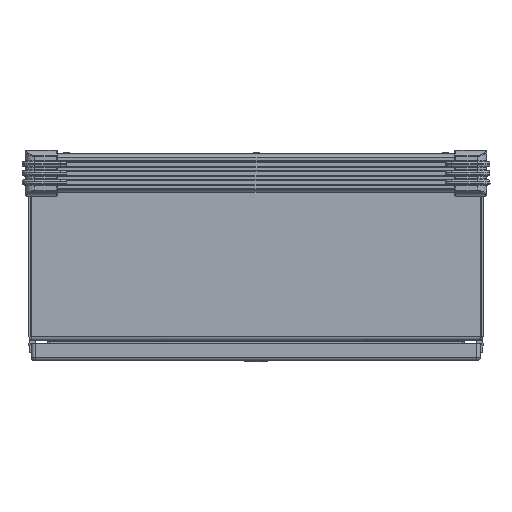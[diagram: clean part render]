
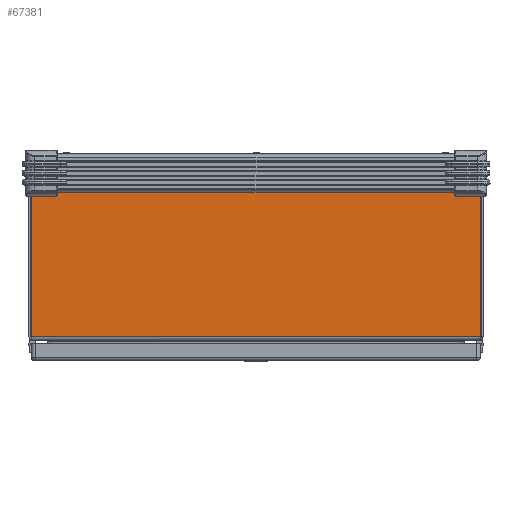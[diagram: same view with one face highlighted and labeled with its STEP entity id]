
A CAD part, left-side view. The second image highlights one B-rep face of the part: STEP entity #67381.
In plain terms, the highlighted planar face has unit normal (-1, 0, 0) as drawn and (1, 0, 0) by its records, which use the part's own axes.
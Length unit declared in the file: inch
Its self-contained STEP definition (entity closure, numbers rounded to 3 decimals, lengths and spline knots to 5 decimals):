
#24755 = VERTEX_POINT ( 'NONE', #56458 ) ;
#33807 = EDGE_LOOP ( 'NONE', ( #41823, #41824 ) ) ;
#33850 = EDGE_LOOP ( 'NONE', ( #41819, #41821 ) ) ;
#33853 = EDGE_LOOP ( 'NONE', ( #41805, #41804 ) ) ;
#33855 = EDGE_LOOP ( 'NONE', ( #41813, #41810, #41809, #41807 ) ) ;
#41804 = ORIENTED_EDGE ( 'NONE', *, *, #61068, .F. ) ;
#41805 = ORIENTED_EDGE ( 'NONE', *, *, #61425, .F. ) ;
#41807 = ORIENTED_EDGE ( 'NONE', *, *, #61220, .T. ) ;
#41809 = ORIENTED_EDGE ( 'NONE', *, *, #61347, .T. ) ;
#41810 = ORIENTED_EDGE ( 'NONE', *, *, #61193, .F. ) ;
#41813 = ORIENTED_EDGE ( 'NONE', *, *, #61342, .T. ) ;
#41819 = ORIENTED_EDGE ( 'NONE', *, *, #61333, .F. ) ;
#41821 = ORIENTED_EDGE ( 'NONE', *, *, #61385, .F. ) ;
#41823 = ORIENTED_EDGE ( 'NONE', *, *, #61218, .F. ) ;
#41824 = ORIENTED_EDGE ( 'NONE', *, *, #61065, .F. ) ;
#46309 = AXIS2_PLACEMENT_3D ( 'NONE', #59357, #59358, #59359 ) ;
#46310 = AXIS2_PLACEMENT_3D ( 'NONE', #59360, #59365, #59366 ) ;
#46341 = AXIS2_PLACEMENT_3D ( 'NONE', #59799, #59800, #59801 ) ;
#46367 = AXIS2_PLACEMENT_3D ( 'NONE', #60109, #60117, #60118 ) ;
#46386 = AXIS2_PLACEMENT_3D ( 'NONE', #60244, #60248, #60249 ) ;
#46398 = AXIS2_PLACEMENT_3D ( 'NONE', #60340, #60352, #60353 ) ;
#56458 = CARTESIAN_POINT ( 'NONE',  ( 10.8275, -8.77943, 0.132 ) ) ;
#57900 = CIRCLE ( 'NONE', #46309, 0.109 ) ;
#57904 = CIRCLE ( 'NONE', #46310, 0.109 ) ;
#58067 = LINE ( 'NONE', #59725, #58068 ) ;
#58068 = VECTOR ( 'NONE', #59726, 39.37008 ) ;
#58100 = CIRCLE ( 'NONE', #46341, 0.109 ) ;
#58101 = LINE ( 'NONE', #59804, #58102 ) ;
#58102 = VECTOR ( 'NONE', #59805, 39.37008 ) ;
#58255 = CIRCLE ( 'NONE', #46367, 0.109 ) ;
#58262 = LINE ( 'NONE', #60140, #58263 ) ;
#58263 = VECTOR ( 'NONE', #60141, 39.37008 ) ;
#58272 = LINE ( 'NONE', #60153, #58273 ) ;
#58273 = VECTOR ( 'NONE', #60154, 39.37008 ) ;
#58330 = CIRCLE ( 'NONE', #46386, 0.109 ) ;
#58390 = CIRCLE ( 'NONE', #46398, 0.109 ) ;
#59357 = CARTESIAN_POINT ( 'NONE',  ( 10.8275, -6.791, 0.553 ) ) ;
#59358 = DIRECTION ( 'NONE',  ( 1., 0., 0. ) ) ;
#59359 = DIRECTION ( 'NONE',  ( 0., 0., -1. ) ) ;
#59360 = CARTESIAN_POINT ( 'NONE',  ( 10.8275, 6.791, 0.553 ) ) ;
#59365 = DIRECTION ( 'NONE',  ( 1., 0., 0. ) ) ;
#59366 = DIRECTION ( 'NONE',  ( 0., 0., -1. ) ) ;
#59725 = CARTESIAN_POINT ( 'NONE',  ( 10.8275, -117.1335, 6.926 ) ) ;
#59726 = DIRECTION ( 'NONE',  ( 0., 1., 0. ) ) ;
#59799 = CARTESIAN_POINT ( 'NONE',  ( 10.8275, -6.791, 0.553 ) ) ;
#59800 = DIRECTION ( 'NONE',  ( 1., 0., 0. ) ) ;
#59801 = DIRECTION ( 'NONE',  ( 0., 0., -1. ) ) ;
#59804 = CARTESIAN_POINT ( 'NONE',  ( 10.8275, -117.1335, 0.132 ) ) ;
#59805 = DIRECTION ( 'NONE',  ( 0., 1., 0. ) ) ;
#60109 = CARTESIAN_POINT ( 'NONE',  ( 10.8275, 0., 0.553 ) ) ;
#60117 = DIRECTION ( 'NONE',  ( 1., 0., 0. ) ) ;
#60118 = DIRECTION ( 'NONE',  ( 0., 0., -1. ) ) ;
#60140 = CARTESIAN_POINT ( 'NONE',  ( 10.8275, 8.77943, 6.926 ) ) ;
#60141 = DIRECTION ( 'NONE',  ( 0., 0., 1. ) ) ;
#60153 = CARTESIAN_POINT ( 'NONE',  ( 10.8275, -8.77943, 6.926 ) ) ;
#60154 = DIRECTION ( 'NONE',  ( 0., 0., -1. ) ) ;
#60244 = CARTESIAN_POINT ( 'NONE',  ( 10.8275, 0., 0.553 ) ) ;
#60248 = DIRECTION ( 'NONE',  ( 1., 0., 0. ) ) ;
#60249 = DIRECTION ( 'NONE',  ( 0., 0., -1. ) ) ;
#60340 = CARTESIAN_POINT ( 'NONE',  ( 10.8275, 6.791, 0.553 ) ) ;
#60352 = DIRECTION ( 'NONE',  ( 1., 0., 0. ) ) ;
#60353 = DIRECTION ( 'NONE',  ( 0., 0., -1. ) ) ;
#61065 = EDGE_CURVE ( 'NONE', #66018, #66014, #57900, .T. ) ;
#61068 = EDGE_CURVE ( 'NONE', #66013, #66025, #57904, .T. ) ;
#61193 = EDGE_CURVE ( 'NONE', #65893, #65891, #58067, .T. ) ;
#61218 = EDGE_CURVE ( 'NONE', #66014, #66018, #58100, .T. ) ;
#61220 = EDGE_CURVE ( 'NONE', #24755, #65861, #58101, .T. ) ;
#61333 = EDGE_CURVE ( 'NONE', #66023, #66008, #58255, .T. ) ;
#61342 = EDGE_CURVE ( 'NONE', #65861, #65891, #58262, .T. ) ;
#61347 = EDGE_CURVE ( 'NONE', #65893, #24755, #58272, .T. ) ;
#61385 = EDGE_CURVE ( 'NONE', #66008, #66023, #58330, .T. ) ;
#61425 = EDGE_CURVE ( 'NONE', #66025, #66013, #58390, .T. ) ;
#61958 = FACE_BOUND ( 'NONE', #33807, .T. ) ;
#61963 = FACE_BOUND ( 'NONE', #33850, .T. ) ;
#61965 = FACE_BOUND ( 'NONE', #33853, .T. ) ;
#61967 = FACE_OUTER_BOUND ( 'NONE', #33855, .T. ) ;
#63054 = CARTESIAN_POINT ( 'NONE',  ( 10.8275, 8.77943, 0.132 ) ) ;
#63070 = CARTESIAN_POINT ( 'NONE',  ( 10.8275, 8.77943, 6.926 ) ) ;
#63071 = CARTESIAN_POINT ( 'NONE',  ( 10.8275, -8.77943, 6.926 ) ) ;
#63138 = CARTESIAN_POINT ( 'NONE',  ( 10.8275, 0., 0.444 ) ) ;
#63143 = CARTESIAN_POINT ( 'NONE',  ( 10.8275, 6.791, 0.444 ) ) ;
#63144 = CARTESIAN_POINT ( 'NONE',  ( 10.8275, -6.791, 0.662 ) ) ;
#63148 = CARTESIAN_POINT ( 'NONE',  ( 10.8275, -6.791, 0.444 ) ) ;
#63153 = CARTESIAN_POINT ( 'NONE',  ( 10.8275, 0., 0.662 ) ) ;
#63155 = CARTESIAN_POINT ( 'NONE',  ( 10.8275, 6.791, 0.662 ) ) ;
#65044 = PLANE ( 'NONE',  #67945 ) ;
#65045 = CARTESIAN_POINT ( 'NONE',  ( 10.8275, -117.1335, 6.926 ) ) ;
#65046 = DIRECTION ( 'NONE',  ( 1., 0., 0. ) ) ;
#65047 = DIRECTION ( 'NONE',  ( 0., 0., -1. ) ) ;
#65861 = VERTEX_POINT ( 'NONE', #63054 ) ;
#65891 = VERTEX_POINT ( 'NONE', #63070 ) ;
#65893 = VERTEX_POINT ( 'NONE', #63071 ) ;
#66008 = VERTEX_POINT ( 'NONE', #63138 ) ;
#66013 = VERTEX_POINT ( 'NONE', #63143 ) ;
#66014 = VERTEX_POINT ( 'NONE', #63144 ) ;
#66018 = VERTEX_POINT ( 'NONE', #63148 ) ;
#66023 = VERTEX_POINT ( 'NONE', #63153 ) ;
#66025 = VERTEX_POINT ( 'NONE', #63155 ) ;
#67381 = ADVANCED_FACE ( 'NONE', ( #61958, #61963, #61965, #61967 ), #65044, .T. ) ;
#67945 = AXIS2_PLACEMENT_3D ( 'NONE', #65045, #65046, #65047 ) ;
